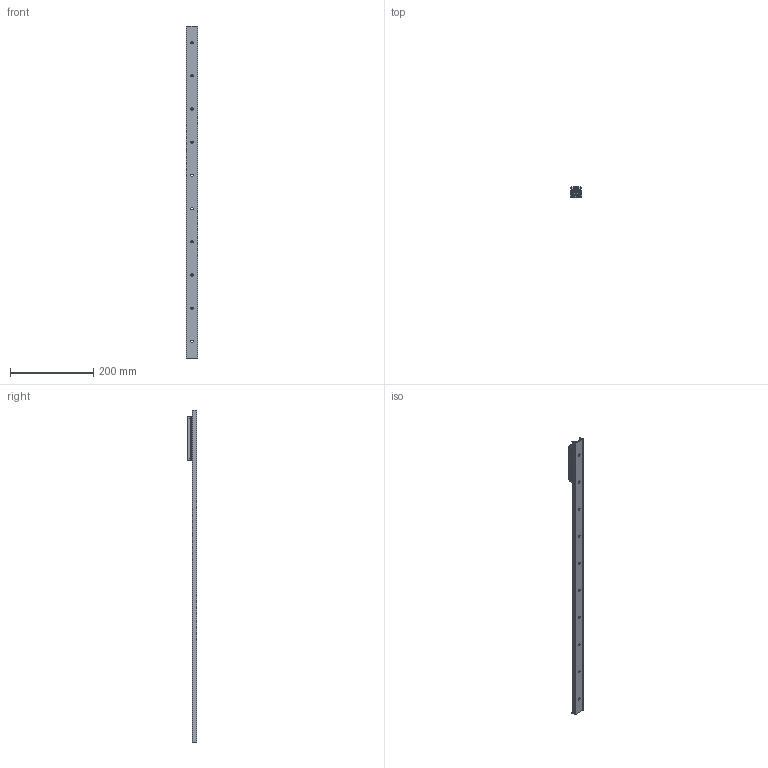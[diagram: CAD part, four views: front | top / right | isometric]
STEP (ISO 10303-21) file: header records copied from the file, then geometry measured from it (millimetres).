
FILE_DESCRIPTION( ( 'STEP AP214' ), '1' );
FILE_NAME( 'p:/temp/worker_22/temp/exporttempdir_4944_523_jEDI7/format_2/TGV-00800_1_RV28G-3.stp', '2020-11-20T15:17:04', ( 'License CC BY-ND 4.0' ), ( 'CADENAS' ), ' ', 'PARTsolutions', ' ' );
FILE_SCHEMA( ( 'AUTOMOTIVE_DESIGN { 1 0 10303 214 1 1 1 1 }' ) );
Length unit declared in the file: millimetre
Products named in the file (6): TGV-00800/1/RV28G-3; _TGV28-0800-(3-1); _RV28G-3-slider; _RGNV28R; _RGAV28R; _WR28G-01
Assembly tree (7 placements, depth 2):
  TGV-00800/1/RV28G-3
    _TGV28-0800-(3-1)
    _RV28G-3-slider
    _RGNV28R  x2
    _RGAV28R
    _WR28G-01  x2
Bounding box: 28 x 24 x 800 mm (x, y, z)
Volume: 152000.1 mm3; surface area: 95619.4 mm2
Topology: 7 solids, 7 shells, 1032 faces, 2695 edges, 1759 vertices
Faces by surface type: plane 657, cylinder 290, cone 50, bspline 26, torus 9
Full cylindrical faces by diameter (mm): 1.27 x4, 2 x2, 2.5 x6, 4 x4, 4.134 x4, 4.2 x3, 5 x3, 5.5 x3, 5.75 x10, 7 x5, 7.5 x1, 8 x6, 10.8 x3, 17 x3, 20.75 x6
Entity records: 24751 total; most frequent: CARTESIAN_POINT 3955, DIRECTION 3300, ORIENTED_EDGE 3054, EDGE_CURVE 1527, AXIS2_PLACEMENT_3D 1255, VERTEX_POINT 1059, EDGE_LOOP 851, LINE 790
